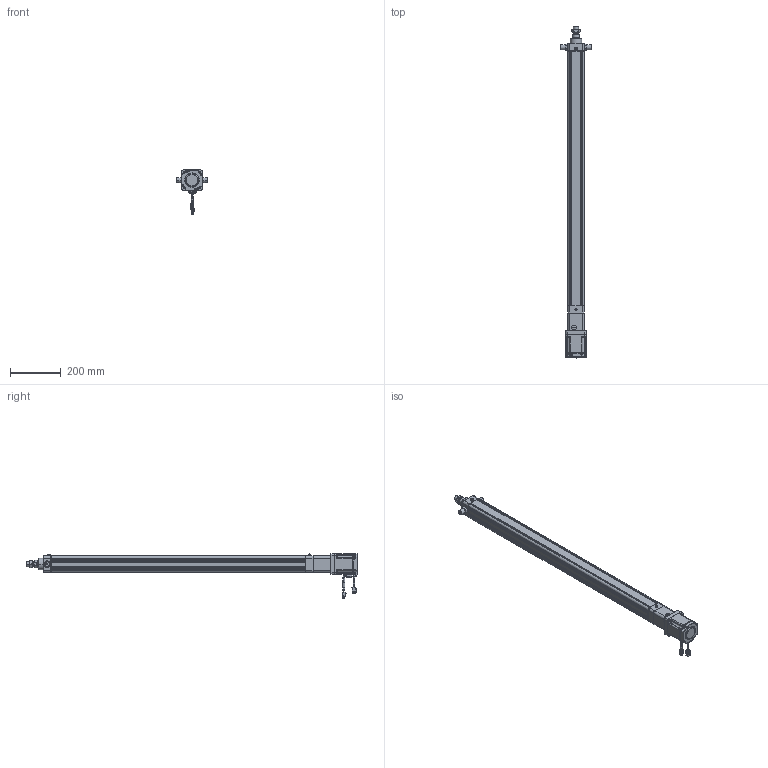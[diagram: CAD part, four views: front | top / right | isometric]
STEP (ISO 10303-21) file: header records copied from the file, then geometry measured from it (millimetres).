
FILE_DESCRIPTION((''),'2;1');
FILE_NAME('HE50-D-100-X1_ASM','2020-05-21T',('ASUS20200'),(''),'CREO PARAMETRIC BY PTC INC, 2014190','CREO PARAMETRIC BY PTC INC, 2014190','');
FILE_SCHEMA(('CONFIG_CONTROL_DESIGN'));
Length unit declared in the file: millimetre
Products named in the file (26): HE50-D-P-001-X1; HE50-D-P-002-X1; HE50-D-P-003-X1; HE50-D-009-X1; HE50-D-010-X1; 6301ZZ; LGLM-M8-22; SKT-16; SLM-01; YZ-M6X1; _MHMF082L1A2; _CABLE_MOTOR_BOTTOM_05; _CABLE_MOTOR_TOP_05; _MOTOR_CONNECTOR_2; _CABLE_BRAKE_BOTTOM_05; _CABLE_BRAKE_TOP_05; _MHMF_CONNECTOR_9_PIN_A6; MHMF082L1A2M2_1_ASM; M6X16; JX6X6X20; JDB303820; HE50-TC; HE50-D-P-005-X1; HE50-D-P-004-X1; HE50-D-P-008-X1; HE50-D-100-X1_ASM
Assembly tree (36 placements, depth 3):
  HE50-D-100-X1_ASM
    HE50-D-P-001-X1
    HE50-D-P-002-X1
    HE50-D-P-003-X1
    HE50-D-009-X1
    HE50-D-010-X1
    6301ZZ
    LGLM-M8-22  x8
    SKT-16
    SLM-01
    YZ-M6X1
    MHMF082L1A2M2_1_ASM
      _MHMF082L1A2
      _CABLE_MOTOR_BOTTOM_05
      _CABLE_MOTOR_TOP_05
      _MOTOR_CONNECTOR_2
      _CABLE_BRAKE_BOTTOM_05
      _CABLE_BRAKE_TOP_05
      _MHMF_CONNECTOR_9_PIN_A6
    M6X16  x4
    JX6X6X20
    JDB303820
    HE50-TC  x2
    HE50-D-P-005-X1
    HE50-D-P-004-X1
    HE50-D-P-008-X1
Bounding box: 124 x 1308.4 x 173.65 mm (x, y, z)
Volume: 2800544.8 mm3; surface area: 822554.2 mm2
Topology: 35 solids, 65 shells, 2585 faces, 6301 edges, 3913 vertices
Faces by surface type: plane 1098, cylinder 749, cone 589, torus 102, sphere 44, bspline 3
Entity records: 67201 total; most frequent: CARTESIAN_POINT 12892, DIRECTION 11855, ORIENTED_EDGE 10734, EDGE_CURVE 5423, AXIS2_PLACEMENT_3D 4420, VERTEX_POINT 3397, VECTOR 3015, LINE 3015
